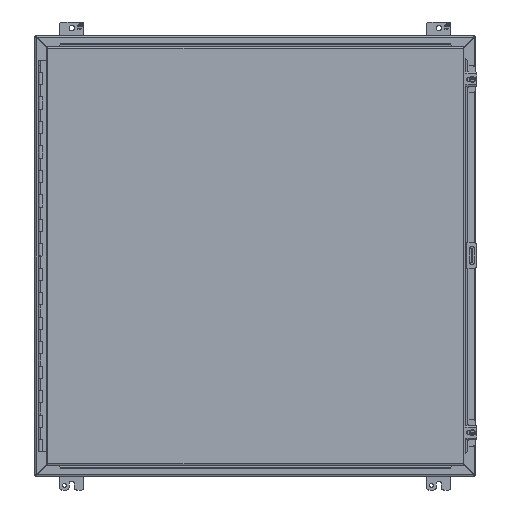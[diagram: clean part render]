
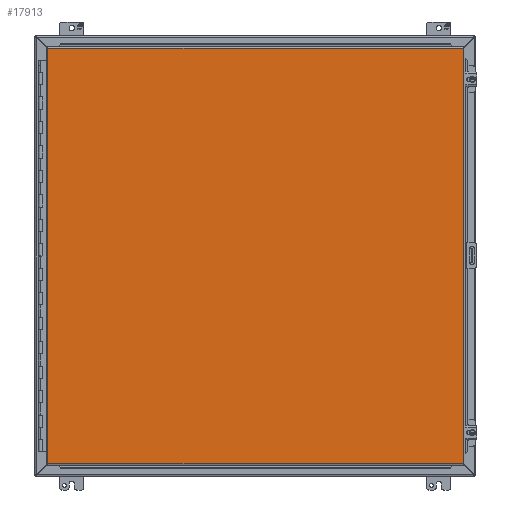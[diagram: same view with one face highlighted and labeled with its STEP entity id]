
A CAD part, front view. The second image highlights one B-rep face of the part: STEP entity #17913.
In plain terms, the highlighted planar face has unit normal (0, -1, 0).
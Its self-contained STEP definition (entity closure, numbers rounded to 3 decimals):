
#1335=LINE('',#27486,#3148);
#1336=LINE('',#27489,#3149);
#1337=LINE('',#27491,#3150);
#1338=LINE('',#27493,#3151);
#3148=VECTOR('',#22164,1000.);
#3149=VECTOR('',#22165,1000.);
#3150=VECTOR('',#22166,1000.);
#3151=VECTOR('',#22167,1000.);
#5563=ORIENTED_EDGE('',*,*,#10501,.T.);
#5564=ORIENTED_EDGE('',*,*,#10502,.T.);
#5565=ORIENTED_EDGE('',*,*,#10503,.T.);
#5566=ORIENTED_EDGE('',*,*,#10504,.T.);
#10501=EDGE_CURVE('',#13047,#13048,#1335,.T.);
#10502=EDGE_CURVE('',#13048,#13049,#1336,.T.);
#10503=EDGE_CURVE('',#13049,#13050,#1337,.T.);
#10504=EDGE_CURVE('',#13050,#13047,#1338,.T.);
#13047=VERTEX_POINT('',#27487);
#13048=VERTEX_POINT('',#27488);
#13049=VERTEX_POINT('',#27490);
#13050=VERTEX_POINT('',#27492);
#14976=EDGE_LOOP('',(#5563,#5564,#5565,#5566));
#16135=FACE_BOUND('',#14976,.T.);
#17190=PLANE('',#19921);
#17913=ADVANCED_FACE('',(#16135),#17190,.T.);
#19921=AXIS2_PLACEMENT_3D('',#27485,#22162,#22163);
#22162=DIRECTION('',(0.,-1.,0.));
#22163=DIRECTION('',(0.,0.,-1.));
#22164=DIRECTION('',(0.,0.,-1.));
#22165=DIRECTION('',(1.,0.,0.));
#22166=DIRECTION('',(0.,0.,1.));
#22167=DIRECTION('',(-1.,0.,0.));
#27485=CARTESIAN_POINT('',(-431.444,0.,-431.66));
#27486=CARTESIAN_POINT('',(-431.444,0.,431.66));
#27487=CARTESIAN_POINT('',(-431.444,0.,431.66));
#27488=CARTESIAN_POINT('',(-431.444,0.,-431.66));
#27489=CARTESIAN_POINT('',(-431.444,0.,-431.66));
#27490=CARTESIAN_POINT('',(431.444,0.,-431.66));
#27491=CARTESIAN_POINT('',(431.444,0.,-431.66));
#27492=CARTESIAN_POINT('',(431.444,0.,431.66));
#27493=CARTESIAN_POINT('',(431.444,0.,431.66));
